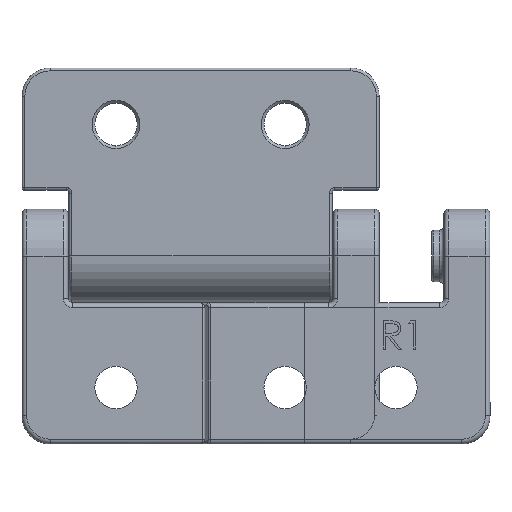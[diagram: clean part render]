
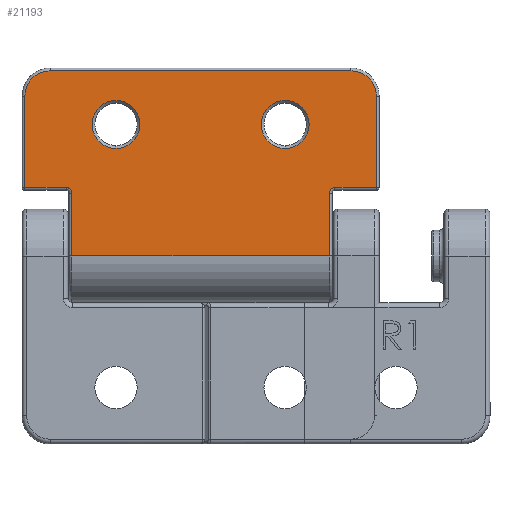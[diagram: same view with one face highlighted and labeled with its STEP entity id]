
A CAD part, front view. The second image highlights one B-rep face of the part: STEP entity #21193.
In plain terms, the highlighted planar face has unit normal (0, -1, 0).
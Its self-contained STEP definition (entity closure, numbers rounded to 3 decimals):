
#152 = DIRECTION ( 'NONE',  ( 0., 0., 1. ) ) ;
#199 = EDGE_CURVE ( 'NONE', #13750, #14194, #11488, .T. ) ;
#421 = DIRECTION ( 'NONE',  ( 0., 1., 0. ) ) ;
#573 = AXIS2_PLACEMENT_3D ( 'NONE', #9899, #11600, #951 ) ;
#599 = VERTEX_POINT ( 'NONE', #6220 ) ;
#666 = VERTEX_POINT ( 'NONE', #17717 ) ;
#833 = CARTESIAN_POINT ( 'NONE',  ( 18.7, -5., 7.3 ) ) ;
#951 = DIRECTION ( 'NONE',  ( 0., 0., 1. ) ) ;
#1046 = DIRECTION ( 'NONE',  ( 0., 1., 0. ) ) ;
#1280 = DIRECTION ( 'NONE',  ( -1., 0., 0. ) ) ;
#1713 = EDGE_CURVE ( 'NONE', #7231, #8584, #5617, .T. ) ;
#2056 = CARTESIAN_POINT ( 'NONE',  ( -14., -5., 7.3 ) ) ;
#2153 = ORIENTED_EDGE ( 'NONE', *, *, #1713, .F. ) ;
#2289 = ORIENTED_EDGE ( 'NONE', *, *, #16488, .T. ) ;
#2636 = ORIENTED_EDGE ( 'NONE', *, *, #18466, .T. ) ;
#2648 = CIRCLE ( 'NONE', #21806, 2.55 ) ;
#2995 = ORIENTED_EDGE ( 'NONE', *, *, #14637, .T. ) ;
#3048 = CARTESIAN_POINT ( 'NONE',  ( -14.3, -5., 7.3 ) ) ;
#3071 = CIRCLE ( 'NONE', #573, 2.55 ) ;
#3130 = CARTESIAN_POINT ( 'NONE',  ( -16., -5., 19.7 ) ) ;
#3559 = LINE ( 'NONE', #20632, #19087 ) ;
#3785 = ORIENTED_EDGE ( 'NONE', *, *, #199, .F. ) ;
#3956 = LINE ( 'NONE', #15670, #8110 ) ;
#3963 = CARTESIAN_POINT ( 'NONE',  ( -9., -5., 14. ) ) ;
#4071 = VERTEX_POINT ( 'NONE', #14407 ) ;
#4267 = CIRCLE ( 'NONE', #19004, 2.7 ) ;
#4415 = ORIENTED_EDGE ( 'NONE', *, *, #16230, .T. ) ;
#4431 = ORIENTED_EDGE ( 'NONE', *, *, #18142, .T. ) ;
#4570 = DIRECTION ( 'NONE',  ( 0., 0., 1. ) ) ;
#5029 = VECTOR ( 'NONE', #11047, 1000. ) ;
#5252 = CARTESIAN_POINT ( 'NONE',  ( -16., -5., 17. ) ) ;
#5288 = CARTESIAN_POINT ( 'NONE',  ( 9., -5., 11.45 ) ) ;
#5617 = CIRCLE ( 'NONE', #17943, 0.6 ) ;
#5779 = VECTOR ( 'NONE', #15267, 1000. ) ;
#5800 = LINE ( 'NONE', #2056, #14154 ) ;
#5855 = CARTESIAN_POINT ( 'NONE',  ( 14., -5., 0. ) ) ;
#5868 = ORIENTED_EDGE ( 'NONE', *, *, #15479, .T. ) ;
#5890 = FACE_BOUND ( 'NONE', #13618, .T. ) ;
#6212 = EDGE_LOOP ( 'NONE', ( #2153, #5868, #9762, #4431, #3785, #22652, #2995, #6848, #13876, #6433, #2636, #19277 ) ) ;
#6220 = CARTESIAN_POINT ( 'NONE',  ( -9., -5., 16.55 ) ) ;
#6407 = LINE ( 'NONE', #21094, #21878 ) ;
#6433 = ORIENTED_EDGE ( 'NONE', *, *, #19771, .T. ) ;
#6848 = ORIENTED_EDGE ( 'NONE', *, *, #12652, .T. ) ;
#7016 = DIRECTION ( 'NONE',  ( 0., 0., 1. ) ) ;
#7231 = VERTEX_POINT ( 'NONE', #9396 ) ;
#7278 = VECTOR ( 'NONE', #152, 1000. ) ;
#7792 = DIRECTION ( 'NONE',  ( 0., 0., 1. ) ) ;
#8047 = CARTESIAN_POINT ( 'NONE',  ( -13.7, -5., 0. ) ) ;
#8110 = VECTOR ( 'NONE', #15750, 1000. ) ;
#8381 = CARTESIAN_POINT ( 'NONE',  ( 14., -5., 19.7 ) ) ;
#8540 = CARTESIAN_POINT ( 'NONE',  ( 9., -5., 16.55 ) ) ;
#8584 = VERTEX_POINT ( 'NONE', #3048 ) ;
#8664 = CARTESIAN_POINT ( 'NONE',  ( 13.7, -5., 6.7 ) ) ;
#8668 = CARTESIAN_POINT ( 'NONE',  ( 14.3, -5., 6.7 ) ) ;
#9215 = CARTESIAN_POINT ( 'NONE',  ( 14.3, -5., 7.3 ) ) ;
#9259 = EDGE_CURVE ( 'NONE', #13512, #17949, #3956, .T. ) ;
#9396 = CARTESIAN_POINT ( 'NONE',  ( -13.7, -5., 6.7 ) ) ;
#9567 = CIRCLE ( 'NONE', #11472, 2.7 ) ;
#9762 = ORIENTED_EDGE ( 'NONE', *, *, #9259, .F. ) ;
#9899 = CARTESIAN_POINT ( 'NONE',  ( -9., -5., 14. ) ) ;
#10029 = DIRECTION ( 'NONE',  ( 0., 0., -1. ) ) ;
#10287 = EDGE_LOOP ( 'NONE', ( #2289, #12107 ) ) ;
#10599 = AXIS2_PLACEMENT_3D ( 'NONE', #3963, #21455, #18173 ) ;
#10693 = DIRECTION ( 'NONE',  ( 0., 0., 1. ) ) ;
#10794 = ORIENTED_EDGE ( 'NONE', *, *, #12031, .T. ) ;
#11047 = DIRECTION ( 'NONE',  ( 1., 0., 0. ) ) ;
#11472 = AXIS2_PLACEMENT_3D ( 'NONE', #20546, #16926, #20320 ) ;
#11488 = CIRCLE ( 'NONE', #14322, 0.6 ) ;
#11600 = DIRECTION ( 'NONE',  ( 0., 1., 0. ) ) ;
#11625 = CARTESIAN_POINT ( 'NONE',  ( -14.3, -5., 6.7 ) ) ;
#11675 = LINE ( 'NONE', #14547, #5029 ) ;
#12031 = EDGE_CURVE ( 'NONE', #12189, #14625, #2648, .T. ) ;
#12086 = VECTOR ( 'NONE', #1280, 1000. ) ;
#12107 = ORIENTED_EDGE ( 'NONE', *, *, #13047, .T. ) ;
#12144 = EDGE_CURVE ( 'NONE', #20678, #18511, #21225, .T. ) ;
#12189 = VERTEX_POINT ( 'NONE', #8540 ) ;
#12514 = VERTEX_POINT ( 'NONE', #14777 ) ;
#12652 = EDGE_CURVE ( 'NONE', #22313, #20678, #9567, .T. ) ;
#12880 = CIRCLE ( 'NONE', #10599, 2.55 ) ;
#13047 = EDGE_CURVE ( 'NONE', #599, #666, #12880, .T. ) ;
#13339 = CARTESIAN_POINT ( 'NONE',  ( 9., -5., 14. ) ) ;
#13512 = VERTEX_POINT ( 'NONE', #22571 ) ;
#13618 = EDGE_LOOP ( 'NONE', ( #4415, #10794 ) ) ;
#13750 = VERTEX_POINT ( 'NONE', #9215 ) ;
#13876 = ORIENTED_EDGE ( 'NONE', *, *, #12144, .T. ) ;
#14154 = VECTOR ( 'NONE', #17799, 1000. ) ;
#14194 = VERTEX_POINT ( 'NONE', #8664 ) ;
#14247 = DIRECTION ( 'NONE',  ( 0., -1., 0. ) ) ;
#14322 = AXIS2_PLACEMENT_3D ( 'NONE', #8668, #14247, #7016 ) ;
#14407 = CARTESIAN_POINT ( 'NONE',  ( -18.7, -5., 7.3 ) ) ;
#14513 = AXIS2_PLACEMENT_3D ( 'NONE', #16278, #421, #17852 ) ;
#14547 = CARTESIAN_POINT ( 'NONE',  ( 19., -5., 7.3 ) ) ;
#14625 = VERTEX_POINT ( 'NONE', #5288 ) ;
#14637 = EDGE_CURVE ( 'NONE', #21855, #22313, #20290, .T. ) ;
#14720 = PLANE ( 'NONE',  #21092 ) ;
#14777 = CARTESIAN_POINT ( 'NONE',  ( -18.7, -5., 17. ) ) ;
#14817 = CARTESIAN_POINT ( 'NONE',  ( 16., -5., 19.7 ) ) ;
#15124 = DIRECTION ( 'NONE',  ( 0., 0., 1. ) ) ;
#15267 = DIRECTION ( 'NONE',  ( 0., 0., 1. ) ) ;
#15479 = EDGE_CURVE ( 'NONE', #7231, #17949, #6407, .T. ) ;
#15670 = CARTESIAN_POINT ( 'NONE',  ( 14., -5., 0. ) ) ;
#15750 = DIRECTION ( 'NONE',  ( -1., 0., 0. ) ) ;
#16230 = EDGE_CURVE ( 'NONE', #14625, #12189, #20815, .T. ) ;
#16278 = CARTESIAN_POINT ( 'NONE',  ( 9., -5., 14. ) ) ;
#16488 = EDGE_CURVE ( 'NONE', #666, #599, #3071, .T. ) ;
#16654 = CARTESIAN_POINT ( 'NONE',  ( 18.7, -5., 17. ) ) ;
#16926 = DIRECTION ( 'NONE',  ( 0., -1., 0. ) ) ;
#17122 = CARTESIAN_POINT ( 'NONE',  ( 13.7, -5., 7. ) ) ;
#17250 = EDGE_CURVE ( 'NONE', #4071, #8584, #5800, .T. ) ;
#17717 = CARTESIAN_POINT ( 'NONE',  ( -9., -5., 11.45 ) ) ;
#17744 = LINE ( 'NONE', #17122, #5779 ) ;
#17799 = DIRECTION ( 'NONE',  ( 1., 0., 0. ) ) ;
#17852 = DIRECTION ( 'NONE',  ( 0., 0., 1. ) ) ;
#17919 = DIRECTION ( 'NONE',  ( 0., -1., 0. ) ) ;
#17943 = AXIS2_PLACEMENT_3D ( 'NONE', #11625, #20593, #15124 ) ;
#17949 = VERTEX_POINT ( 'NONE', #8047 ) ;
#18107 = CARTESIAN_POINT ( 'NONE',  ( 18.7, -5., 17. ) ) ;
#18142 = EDGE_CURVE ( 'NONE', #13512, #14194, #17744, .T. ) ;
#18173 = DIRECTION ( 'NONE',  ( 0., 0., 1. ) ) ;
#18466 = EDGE_CURVE ( 'NONE', #12514, #4071, #3559, .T. ) ;
#18511 = VERTEX_POINT ( 'NONE', #3130 ) ;
#18939 = FACE_BOUND ( 'NONE', #10287, .T. ) ;
#19004 = AXIS2_PLACEMENT_3D ( 'NONE', #5252, #17919, #10693 ) ;
#19087 = VECTOR ( 'NONE', #10029, 1000. ) ;
#19181 = DIRECTION ( 'NONE',  ( 0., 0., -1. ) ) ;
#19277 = ORIENTED_EDGE ( 'NONE', *, *, #17250, .T. ) ;
#19756 = FACE_OUTER_BOUND ( 'NONE', #6212, .T. ) ;
#19771 = EDGE_CURVE ( 'NONE', #18511, #12514, #4267, .T. ) ;
#20290 = LINE ( 'NONE', #18107, #7278 ) ;
#20320 = DIRECTION ( 'NONE',  ( 0., 0., 1. ) ) ;
#20335 = DIRECTION ( 'NONE',  ( 0., 1., 0. ) ) ;
#20546 = CARTESIAN_POINT ( 'NONE',  ( 16., -5., 17. ) ) ;
#20593 = DIRECTION ( 'NONE',  ( 0., -1., 0. ) ) ;
#20632 = CARTESIAN_POINT ( 'NONE',  ( -18.7, -5., 0. ) ) ;
#20678 = VERTEX_POINT ( 'NONE', #14817 ) ;
#20815 = CIRCLE ( 'NONE', #14513, 2.55 ) ;
#21092 = AXIS2_PLACEMENT_3D ( 'NONE', #5855, #20335, #7792 ) ;
#21094 = CARTESIAN_POINT ( 'NONE',  ( -13.7, -5., 0. ) ) ;
#21193 = ADVANCED_FACE ( 'NONE', ( #18939, #5890, #19756 ), #14720, .F. ) ;
#21225 = LINE ( 'NONE', #8381, #12086 ) ;
#21455 = DIRECTION ( 'NONE',  ( 0., 1., 0. ) ) ;
#21706 = EDGE_CURVE ( 'NONE', #13750, #21855, #11675, .T. ) ;
#21806 = AXIS2_PLACEMENT_3D ( 'NONE', #13339, #1046, #4570 ) ;
#21855 = VERTEX_POINT ( 'NONE', #833 ) ;
#21878 = VECTOR ( 'NONE', #19181, 1000. ) ;
#22313 = VERTEX_POINT ( 'NONE', #16654 ) ;
#22571 = CARTESIAN_POINT ( 'NONE',  ( 13.7, -5., 0. ) ) ;
#22652 = ORIENTED_EDGE ( 'NONE', *, *, #21706, .T. ) ;
